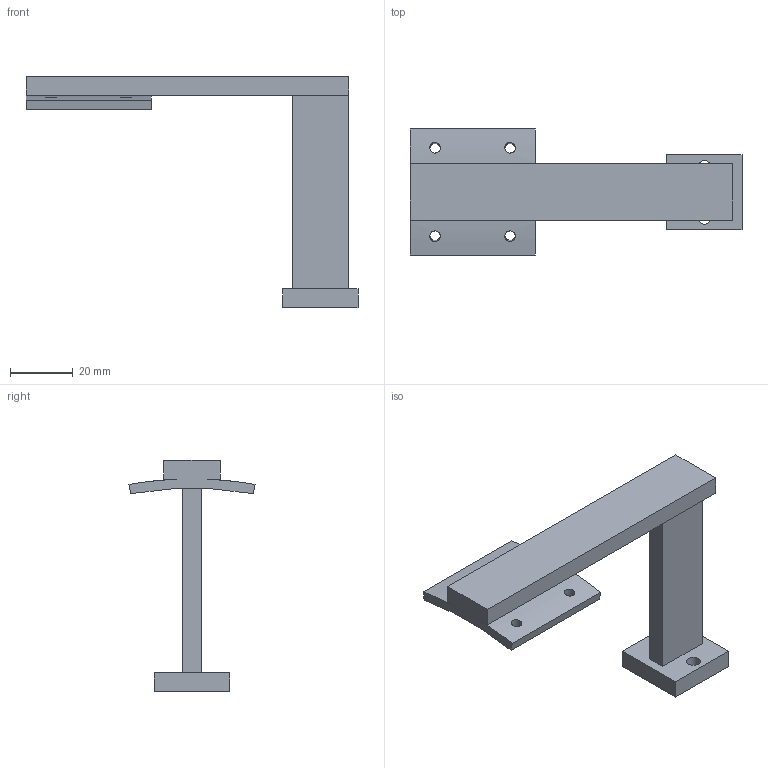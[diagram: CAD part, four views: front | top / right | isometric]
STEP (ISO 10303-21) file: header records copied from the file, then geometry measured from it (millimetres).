
FILE_DESCRIPTION(('Open CASCADE Model'),'2;1');
FILE_NAME('Open CASCADE Shape Model','2026-11-02T23:22:41',('Author'),( 'Open CASCADE'),'Open CASCADE STEP processor 7.9','Open CASCADE 7.9' ,'Unknown');
FILE_SCHEMA(('AUTOMOTIVE_DESIGN { 1 0 10303 214 1 1 1 1 }'));
Length unit declared in the file: millimetre
Products named in the file (1): Open CASCADE STEP translator 7.9 20
Bounding box: 106.2 x 40.32 x 73.9 mm (x, y, z)
Volume: 25770 mm3; surface area: 12721.4 mm2
Topology: 1 solids, 1 shells, 27 faces, 72 edges, 48 vertices
Faces by surface type: plane 18, cylinder 9
Full cylindrical faces by diameter (mm): 3.4 x4, 4.4 x2
Entity records: 2940 total; most frequent: CARTESIAN_POINT 1480, DIRECTION 256, LINE 172, VECTOR 172, ORIENTED_EDGE 144, PCURVE 144, DEFINITIONAL_REPRESENTATION 144, EDGE_CURVE 72
